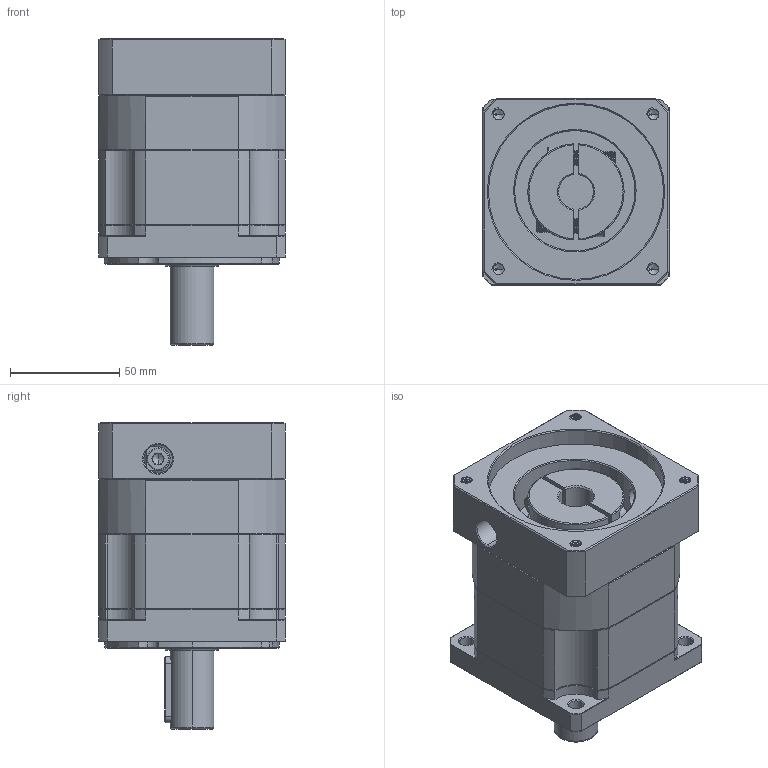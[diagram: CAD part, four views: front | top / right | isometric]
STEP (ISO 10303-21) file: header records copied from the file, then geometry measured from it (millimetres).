
FILE_DESCRIPTION (( 'STEP AP214' ), '1' );
FILE_NAME ('ZB90-D20-L1-16-80-100-M6.STEP', '2022-05-02T15:39:16', ( '' ), ( 'Microsoft' ), 'SwSTEP 2.0', 'SolidWorks 2016', '' );
FILE_SCHEMA (( 'AUTOMOTIVE_DESIGN' ));
Length unit declared in the file: millimetre
Products named in the file (1): ZB90-D20-L1-16-80-100-M6
Bounding box: 85 x 85 x 140 mm (x, y, z)
Volume: 598903.4 mm3; surface area: 86271.2 mm2
Topology: 4 solids, 5 shells, 1941 faces, 5066 edges, 3205 vertices
Faces by surface type: plane 886, cylinder 396, cone 333, bspline 299, torus 27
Entity records: 104678 total; most frequent: CARTESIAN_POINT 38403, ORIENTED_EDGE 10088, DIRECTION 8186, EDGE_CURVE 5044, VERTEX_POINT 3205, VECTOR 3100, LINE 3100, AXIS2_PLACEMENT_3D 2543
